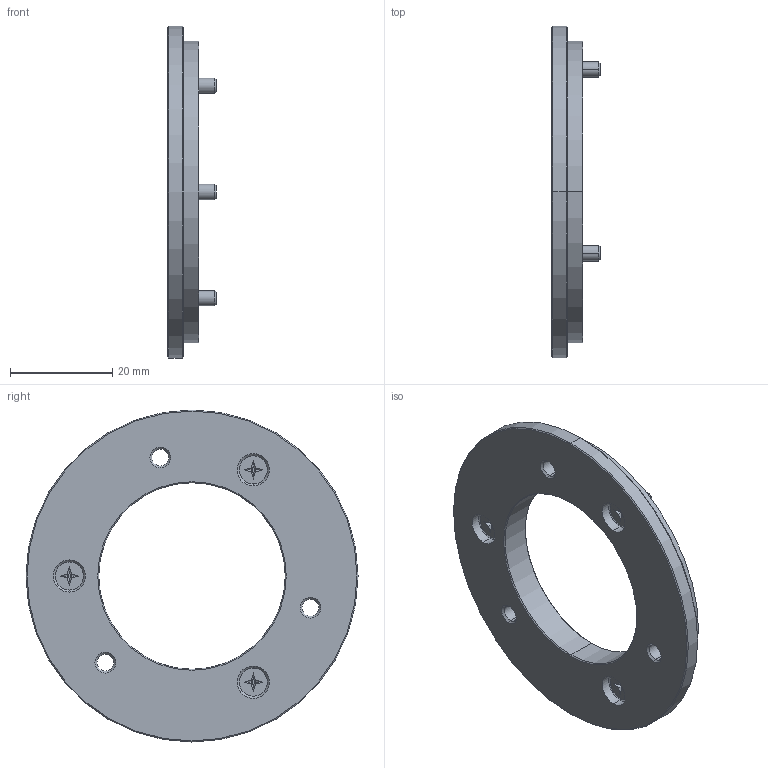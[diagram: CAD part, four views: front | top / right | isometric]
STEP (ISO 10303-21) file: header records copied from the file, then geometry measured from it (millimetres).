
FILE_DESCRIPTION (( 'STEP AP214' ), '1' );
FILE_NAME ('8.0010.2230.0000.STEP', '2014-11-06T12:44:58', ( 'admin' ), ( 'Microsoft' ), 'SwSTEP 2.0', 'SolidWorks 2013', '' );
FILE_SCHEMA (( 'AUTOMOTIVE_DESIGN' ));
Length unit declared in the file: millimetre
Products named in the file (3): 8.0010.2230.0000; N608714_Adapterflansch_CE65~2; N630236_Senkkopfschraube_DIN965_M3x6~0
Assembly tree (4 placements, depth 2):
  8.0010.2230.0000
    N608714_Adapterflansch_CE65~2
    N630236_Senkkopfschraube_DIN965_M3x6~0  x3
Bounding box: 9.45 x 65 x 65 mm (x, y, z)
Volume: 11581.9 mm3; surface area: 6998 mm2
Topology: 4 solids, 4 shells, 128 faces, 280 edges, 164 vertices
Faces by surface type: cylinder 60, plane 36, cone 32
Entity records: 2603 total; most frequent: DIRECTION 390, CARTESIAN_POINT 365, ORIENTED_EDGE 328, EDGE_CURVE 164, AXIS2_PLACEMENT_3D 153, VERTEX_POINT 96, EDGE_LOOP 90, VECTOR 84
